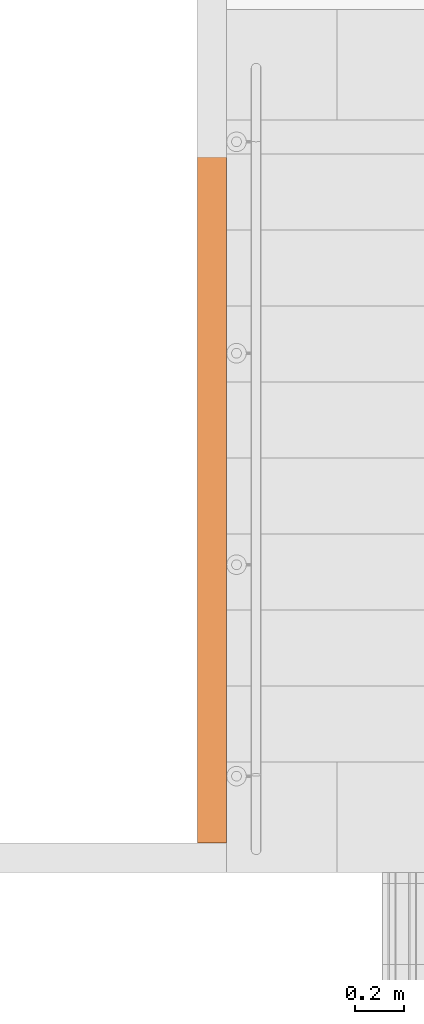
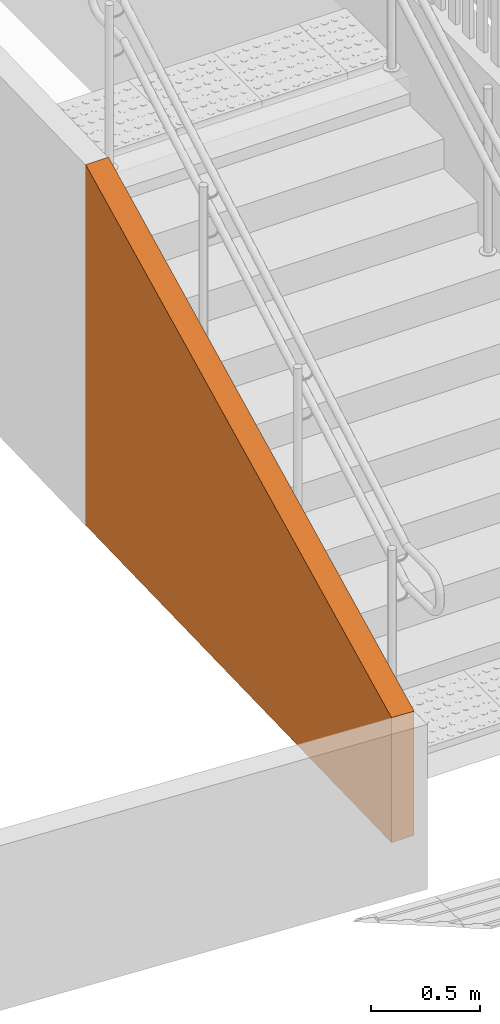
# One storey, part 208 of 237: 1 proxy.
"""IFC2X3 building model written with IfcOpenShell, lengths in millimetres."""

from ifc_helpers import new_model, entity, si_unit, converted_unit, derived_unit, money_unit, direction, frame, origin_with_axes, place, context, subcontext, project, spatial, faceted_brep, material, type_object, element, save


model = new_model("IFC2X3")

# Units and contexts
model_context = context("Model", 3, precision=0.01, world=origin_with_axes(), true_north=direction((0.0, 1.0)))
body_context = subcontext(model_context, "Body", "Model", "MODEL_VIEW")
ifc_project = project(units=[si_unit("LENGTHUNIT", "METRE", prefix="MILLI"), si_unit("AREAUNIT", "SQUARE_METRE"), si_unit("VOLUMEUNIT", "CUBIC_METRE"), converted_unit("PLANEANGLEUNIT", "DEGREE", entity("IfcPlaneAngleMeasure", 0.0174532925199), si_unit("PLANEANGLEUNIT", "RADIAN"), dimensions=[0, 0, 0, 0, 0, 0, 0]), money_unit("USD"), converted_unit("TIMEUNIT", "Year", entity("IfcTimeMeasure", 31556926.0), si_unit("TIMEUNIT", "SECOND"), dimensions=[0, 0, 1, 0, 0, 0, 0]), si_unit("MASSUNIT", "GRAM", prefix="KILO"), si_unit("THERMODYNAMICTEMPERATUREUNIT", "DEGREE_CELSIUS"), si_unit("LUMINOUSINTENSITYUNIT", "LUMEN"), si_unit("ENERGYUNIT", "JOULE", prefix="MEGA"), derived_unit("THERMALCONDUCTANCEUNIT", [(si_unit("POWERUNIT", "WATT"), 1), (si_unit("LENGTHUNIT", "METRE"), -1), (si_unit("THERMODYNAMICTEMPERATUREUNIT", "KELVIN"), -1)]), derived_unit("SPECIFICHEATCAPACITYUNIT", [(si_unit("ENERGYUNIT", "JOULE"), 1), (si_unit("MASSUNIT", "GRAM", prefix="KILO"), -1), (si_unit("THERMODYNAMICTEMPERATUREUNIT", "KELVIN"), -1)]), derived_unit("MASSDENSITYUNIT", [(si_unit("MASSUNIT", "GRAM", prefix="KILO"), 1), (si_unit("VOLUMEUNIT", "CUBIC_METRE"), -1)])], contexts=[model_context])

# Site, building, storey
site_placement = place(None, origin_with_axes())
site = spatial("IfcSite", under=ifc_project, at=site_placement, Name="Local", CompositionType="ELEMENT")
building_placement = place(site_placement, origin_with_axes())
building = spatial("IfcBuilding", under=site, at=building_placement, Name="Construção", CompositionType="ELEMENT")
storey_placement = place(building_placement, origin_with_axes())
storey = spatial("IfcBuildingStorey", under=building, at=storey_placement, Name="Pavimento Térreo", CompositionType="ELEMENT", Elevation=0.0)

# Proxy
ifc_material = material(Name="GENÉRICO - ESTRUTURAL")
building_element_proxy_type = type_object("IfcBuildingElementProxyType", Name="GENÉRICO - ESTRUTURAL", PredefinedType="NOTDEFINED")
proxy_placement = place(storey_placement, frame((-125837.875762, -47851.4587398, 0.0), z_axis=(0.0, 0.0, 1.0), x_axis=(1.0, 0.0, 0.0)))
element("IfcBuildingElementProxy", 1, at=proxy_placement, inside=storey, type_object=building_element_proxy_type, material=ifc_material, Name="Viga-030", context=body_context, shape_type="Brep", body=[
    faceted_brep([(166280.322536, 62792.1362203, -3515.71292348), (166280.322536, 59994.8723606, -3592.44319724), (166280.322536, 59994.8723606, -2893.62088911), (166280.322536, 62792.1362203, -1502.08187954), (166400.322536, 62792.1362203, -3515.71292348), (166400.322536, 59994.8723606, -3592.44319724), (166400.319854, 59994.8723581, -2899.56876412), (166400.322536, 62792.1362203, -1502.08187954)], [[[0, 1, 2, 3]], [[1, 0, 4, 5]], [[2, 1, 5, 6]], [[3, 2, 6]], [[4, 0, 3, 7]], [[6, 5, 4, 7]], [[3, 6, 7]]]),
])

save(model, "model.ifc")
